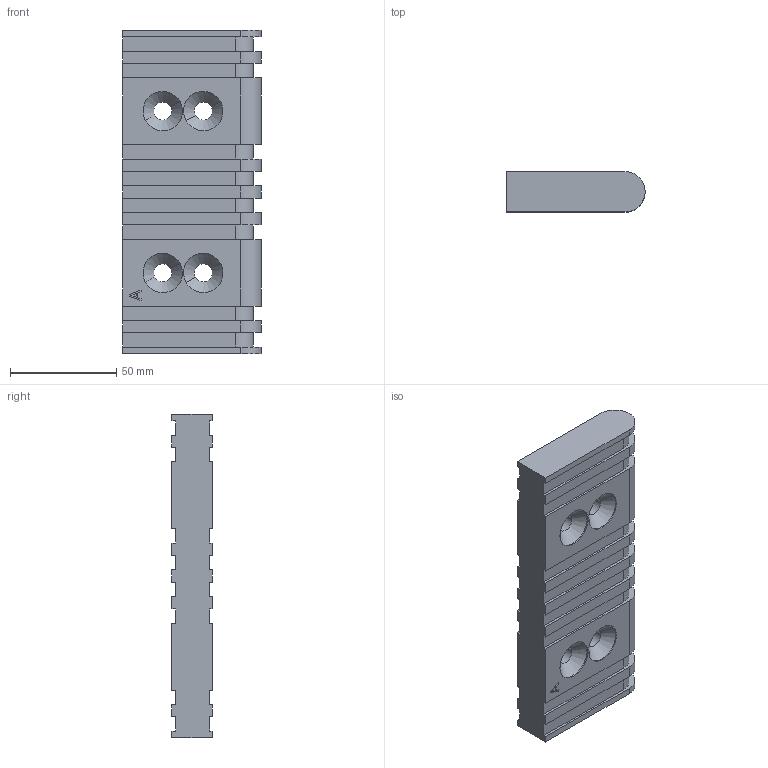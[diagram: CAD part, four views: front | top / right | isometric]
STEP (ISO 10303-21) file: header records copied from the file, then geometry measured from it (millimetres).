
FILE_DESCRIPTION(('CATIA V5 STEP Exchange'),'2;1');
FILE_NAME('S:\3D e 2D per Clienti\3D definitivi\Part 200\P22866_01.stp','2021-04-13T07:35:40+00:00',('none'),('none'),'Version 5-6 Release 2012','CATIA V5 STEP AP203','none');
FILE_SCHEMA(('CONFIG_CONTROL_DESIGN'));
Length unit declared in the file: millimetre
Products named in the file (1): P22866_01
Bounding box: 65 x 19 x 151.8 mm (x, y, z)
Volume: 159454.5 mm3; surface area: 31193.4 mm2
Topology: 1 solids, 1 shells, 144 faces, 401 edges, 262 vertices
Faces by surface type: plane 79, cylinder 49, cone 16
Entity records: 4145 total; most frequent: ORIENTED_EDGE 802, CARTESIAN_POINT 726, DIRECTION 525, EDGE_CURVE 401, VECTOR 287, LINE 287, VERTEX_POINT 262, AXIS2_PLACEMENT_3D 177
